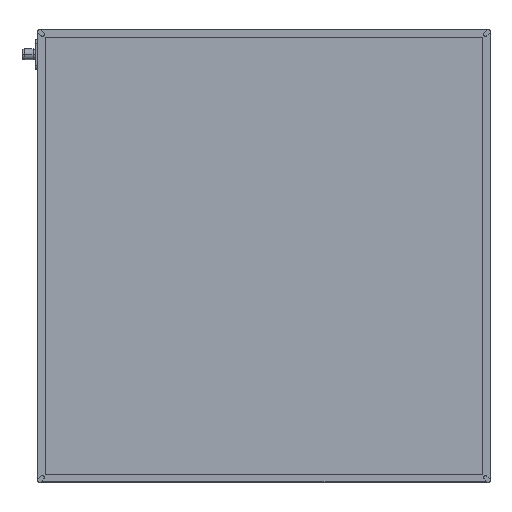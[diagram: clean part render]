
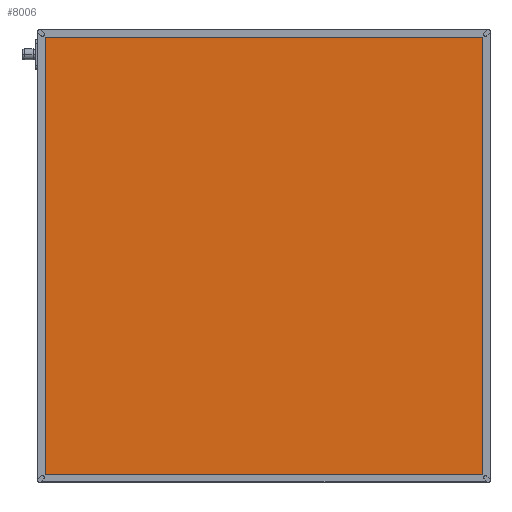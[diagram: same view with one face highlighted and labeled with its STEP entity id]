
A CAD part, top view. The second image highlights one B-rep face of the part: STEP entity #8006.
In plain terms, the highlighted planar face has unit normal (0, 0, 1).
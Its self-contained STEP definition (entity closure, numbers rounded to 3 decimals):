
#2296 = VECTOR ( 'NONE', #3388, 1000. ) ;
#2503 = VECTOR ( 'NONE', #8290, 1000. ) ;
#2623 = ORIENTED_EDGE ( 'NONE', *, *, #6083, .T. ) ;
#2699 = EDGE_CURVE ( 'NONE', #13765, #6022, #8644, .T. ) ;
#2930 = DIRECTION ( 'NONE',  ( 0., -1., 0. ) ) ;
#2980 = ORIENTED_EDGE ( 'NONE', *, *, #2699, .T. ) ;
#3150 = EDGE_LOOP ( 'NONE', ( #9969, #15706, #2623, #2980 ) ) ;
#3388 = DIRECTION ( 'NONE',  ( -1., 0., 0. ) ) ;
#3741 = CARTESIAN_POINT ( 'NONE',  ( 4., 496., 41.85 ) ) ;
#4171 = AXIS2_PLACEMENT_3D ( 'NONE', #15512, #14289, #5151 ) ;
#4307 = DIRECTION ( 'NONE',  ( 1., 0., 0. ) ) ;
#4502 = LINE ( 'NONE', #7120, #5535 ) ;
#4522 = EDGE_CURVE ( 'NONE', #6022, #11107, #7090, .T. ) ;
#4726 = VERTEX_POINT ( 'NONE', #3741 ) ;
#5151 = DIRECTION ( 'NONE',  ( -1., 0., 0. ) ) ;
#5535 = VECTOR ( 'NONE', #2930, 1000. ) ;
#5758 = CARTESIAN_POINT ( 'NONE',  ( 0., 496., 41.85 ) ) ;
#6022 = VERTEX_POINT ( 'NONE', #6950 ) ;
#6083 = EDGE_CURVE ( 'NONE', #4726, #13765, #4502, .T. ) ;
#6098 = VECTOR ( 'NONE', #4307, 1000. ) ;
#6950 = CARTESIAN_POINT ( 'NONE',  ( 496., 4., 41.85 ) ) ;
#7090 = LINE ( 'NONE', #11256, #2503 ) ;
#7120 = CARTESIAN_POINT ( 'NONE',  ( 4., 0., 41.85 ) ) ;
#7210 = CARTESIAN_POINT ( 'NONE',  ( 496., 496., 41.85 ) ) ;
#8006 = ADVANCED_FACE ( 'NONE', ( #14205 ), #16910, .F. ) ;
#8290 = DIRECTION ( 'NONE',  ( 0., 1., 0. ) ) ;
#8644 = LINE ( 'NONE', #16251, #6098 ) ;
#8893 = CARTESIAN_POINT ( 'NONE',  ( 4., 4., 41.85 ) ) ;
#9969 = ORIENTED_EDGE ( 'NONE', *, *, #4522, .T. ) ;
#11107 = VERTEX_POINT ( 'NONE', #7210 ) ;
#11256 = CARTESIAN_POINT ( 'NONE',  ( 496., 0., 41.85 ) ) ;
#13765 = VERTEX_POINT ( 'NONE', #8893 ) ;
#13963 = EDGE_CURVE ( 'NONE', #11107, #4726, #15335, .T. ) ;
#14205 = FACE_OUTER_BOUND ( 'NONE', #3150, .T. ) ;
#14289 = DIRECTION ( 'NONE',  ( 0., 0., -1. ) ) ;
#15335 = LINE ( 'NONE', #5758, #2296 ) ;
#15512 = CARTESIAN_POINT ( 'NONE',  ( 0., 0., 41.85 ) ) ;
#15706 = ORIENTED_EDGE ( 'NONE', *, *, #13963, .T. ) ;
#16251 = CARTESIAN_POINT ( 'NONE',  ( 0., 4., 41.85 ) ) ;
#16910 = PLANE ( 'NONE',  #4171 ) ;
